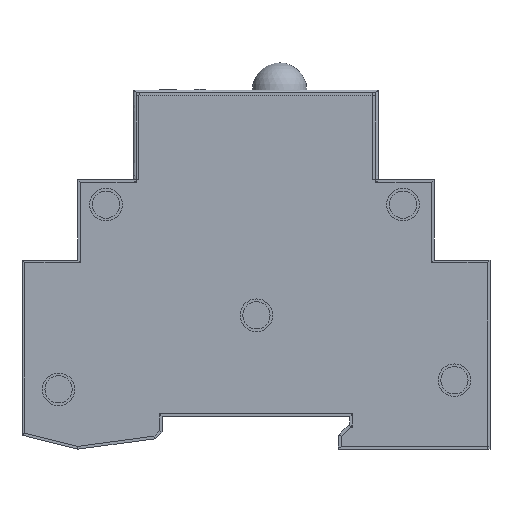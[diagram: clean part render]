
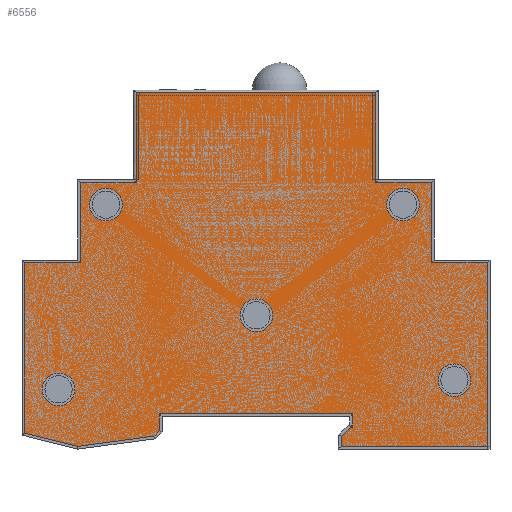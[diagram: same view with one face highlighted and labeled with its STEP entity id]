
A CAD part, left-side view. The second image highlights one B-rep face of the part: STEP entity #6556.
In plain terms, the highlighted planar face has unit normal (-1, 0, 0).
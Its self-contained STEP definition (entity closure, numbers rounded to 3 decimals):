
#380=LINE('',#9742,#930);
#381=LINE('',#9784,#931);
#382=LINE('',#9826,#932);
#383=LINE('',#9868,#933);
#384=LINE('',#9910,#934);
#385=LINE('',#9952,#935);
#386=LINE('',#9994,#936);
#387=LINE('',#10036,#937);
#388=LINE('',#10078,#938);
#390=LINE('',#10136,#940);
#391=LINE('',#10177,#941);
#394=LINE('',#10210,#944);
#396=LINE('',#10254,#946);
#398=LINE('',#10298,#948);
#400=LINE('',#10342,#950);
#402=LINE('',#10386,#952);
#404=LINE('',#10430,#954);
#406=LINE('',#10474,#956);
#408=LINE('',#10518,#958);
#410=LINE('',#10561,#960);
#411=LINE('',#10602,#961);
#930=VECTOR('',#7778,10.);
#931=VECTOR('',#7779,10.);
#932=VECTOR('',#7780,10.);
#933=VECTOR('',#7781,10.);
#934=VECTOR('',#7782,10.);
#935=VECTOR('',#7783,10.);
#936=VECTOR('',#7784,10.);
#937=VECTOR('',#7785,10.);
#938=VECTOR('',#7786,10.);
#940=VECTOR('',#7788,10.);
#941=VECTOR('',#7789,10.);
#944=VECTOR('',#7792,10.);
#946=VECTOR('',#7794,10.);
#948=VECTOR('',#7796,10.);
#950=VECTOR('',#7798,10.);
#952=VECTOR('',#7800,10.);
#954=VECTOR('',#7802,10.);
#956=VECTOR('',#7804,10.);
#958=VECTOR('',#7806,10.);
#960=VECTOR('',#7808,10.);
#961=VECTOR('',#7809,10.);
#1437=PLANE('',#7030);
#1697=FACE_BOUND('',#2340,.T.);
#1698=FACE_BOUND('',#2341,.T.);
#1699=FACE_BOUND('',#2342,.T.);
#1700=FACE_BOUND('',#2343,.T.);
#1701=FACE_BOUND('',#2344,.T.);
#1891=FACE_OUTER_BOUND('',#2339,.T.);
#2339=EDGE_LOOP('',(#4835,#4836,#4837,#4838,#4839,#4840,#4841,#4842,#4843,
#4844,#4845,#4846,#4847,#4848,#4849,#4850,#4851,#4852,#4853,#4854,#4855));
#2340=EDGE_LOOP('',(#4856));
#2341=EDGE_LOOP('',(#4857));
#2342=EDGE_LOOP('',(#4858));
#2343=EDGE_LOOP('',(#4859));
#2344=EDGE_LOOP('',(#4860));
#2843=CIRCLE('',#7031,3.);
#2844=CIRCLE('',#7032,3.);
#2845=CIRCLE('',#7033,3.);
#2846=CIRCLE('',#7034,3.);
#2847=CIRCLE('',#7035,3.);
#3085=VERTEX_POINT('',#9698);
#3086=VERTEX_POINT('',#9741);
#3087=VERTEX_POINT('',#9783);
#3088=VERTEX_POINT('',#9825);
#3089=VERTEX_POINT('',#9867);
#3090=VERTEX_POINT('',#9909);
#3091=VERTEX_POINT('',#9951);
#3092=VERTEX_POINT('',#9993);
#3093=VERTEX_POINT('',#10035);
#3094=VERTEX_POINT('',#10077);
#3097=VERTEX_POINT('',#10122);
#3098=VERTEX_POINT('',#10135);
#3100=VERTEX_POINT('',#10209);
#3102=VERTEX_POINT('',#10253);
#3104=VERTEX_POINT('',#10297);
#3106=VERTEX_POINT('',#10341);
#3108=VERTEX_POINT('',#10385);
#3110=VERTEX_POINT('',#10429);
#3112=VERTEX_POINT('',#10473);
#3114=VERTEX_POINT('',#10517);
#3115=VERTEX_POINT('',#10560);
#3116=VERTEX_POINT('',#10608);
#3117=VERTEX_POINT('',#10610);
#3118=VERTEX_POINT('',#10612);
#3119=VERTEX_POINT('',#10614);
#3120=VERTEX_POINT('',#10616);
#3753=EDGE_CURVE('',#3085,#3086,#380,.T.);
#3755=EDGE_CURVE('',#3086,#3087,#381,.T.);
#3757=EDGE_CURVE('',#3087,#3088,#382,.T.);
#3759=EDGE_CURVE('',#3088,#3089,#383,.T.);
#3761=EDGE_CURVE('',#3089,#3090,#384,.T.);
#3763=EDGE_CURVE('',#3090,#3091,#385,.T.);
#3765=EDGE_CURVE('',#3091,#3092,#386,.T.);
#3767=EDGE_CURVE('',#3092,#3093,#387,.T.);
#3769=EDGE_CURVE('',#3093,#3094,#388,.T.);
#3773=EDGE_CURVE('',#3097,#3098,#390,.T.);
#3775=EDGE_CURVE('',#3094,#3097,#391,.T.);
#3778=EDGE_CURVE('',#3098,#3100,#394,.T.);
#3781=EDGE_CURVE('',#3100,#3102,#396,.T.);
#3784=EDGE_CURVE('',#3102,#3104,#398,.T.);
#3787=EDGE_CURVE('',#3104,#3106,#400,.T.);
#3790=EDGE_CURVE('',#3106,#3108,#402,.T.);
#3793=EDGE_CURVE('',#3108,#3110,#404,.T.);
#3796=EDGE_CURVE('',#3110,#3112,#406,.T.);
#3799=EDGE_CURVE('',#3112,#3114,#408,.T.);
#3802=EDGE_CURVE('',#3114,#3115,#410,.T.);
#3804=EDGE_CURVE('',#3115,#3085,#411,.T.);
#3807=EDGE_CURVE('',#3116,#3116,#2843,.T.);
#3808=EDGE_CURVE('',#3117,#3117,#2844,.T.);
#3809=EDGE_CURVE('',#3118,#3118,#2845,.T.);
#3810=EDGE_CURVE('',#3119,#3119,#2846,.T.);
#3811=EDGE_CURVE('',#3120,#3120,#2847,.T.);
#4835=ORIENTED_EDGE('',*,*,#3773,.F.);
#4836=ORIENTED_EDGE('',*,*,#3775,.F.);
#4837=ORIENTED_EDGE('',*,*,#3769,.F.);
#4838=ORIENTED_EDGE('',*,*,#3767,.F.);
#4839=ORIENTED_EDGE('',*,*,#3765,.F.);
#4840=ORIENTED_EDGE('',*,*,#3763,.F.);
#4841=ORIENTED_EDGE('',*,*,#3761,.F.);
#4842=ORIENTED_EDGE('',*,*,#3759,.F.);
#4843=ORIENTED_EDGE('',*,*,#3757,.F.);
#4844=ORIENTED_EDGE('',*,*,#3755,.F.);
#4845=ORIENTED_EDGE('',*,*,#3753,.F.);
#4846=ORIENTED_EDGE('',*,*,#3804,.F.);
#4847=ORIENTED_EDGE('',*,*,#3802,.F.);
#4848=ORIENTED_EDGE('',*,*,#3799,.F.);
#4849=ORIENTED_EDGE('',*,*,#3796,.F.);
#4850=ORIENTED_EDGE('',*,*,#3793,.F.);
#4851=ORIENTED_EDGE('',*,*,#3790,.F.);
#4852=ORIENTED_EDGE('',*,*,#3787,.F.);
#4853=ORIENTED_EDGE('',*,*,#3784,.F.);
#4854=ORIENTED_EDGE('',*,*,#3781,.F.);
#4855=ORIENTED_EDGE('',*,*,#3778,.F.);
#4856=ORIENTED_EDGE('',*,*,#3807,.T.);
#4857=ORIENTED_EDGE('',*,*,#3808,.T.);
#4858=ORIENTED_EDGE('',*,*,#3809,.T.);
#4859=ORIENTED_EDGE('',*,*,#3810,.T.);
#4860=ORIENTED_EDGE('',*,*,#3811,.T.);
#6556=ADVANCED_FACE('',(#1891,#1697,#1698,#1699,#1700,#1701),#1437,.F.);
#7030=AXIS2_PLACEMENT_3D('',#10607,#7816,#7817);
#7031=AXIS2_PLACEMENT_3D('',#10609,#7818,#7819);
#7032=AXIS2_PLACEMENT_3D('',#10611,#7820,#7821);
#7033=AXIS2_PLACEMENT_3D('',#10613,#7822,#7823);
#7034=AXIS2_PLACEMENT_3D('',#10615,#7824,#7825);
#7035=AXIS2_PLACEMENT_3D('',#10617,#7826,#7827);
#7778=DIRECTION('',(0.,1.,0.));
#7779=DIRECTION('',(0.,0.,1.));
#7780=DIRECTION('',(0.,-0.707,0.707));
#7781=DIRECTION('',(0.,-1.,0.));
#7782=DIRECTION('',(0.,0.,1.));
#7783=DIRECTION('',(0.,1.,0.));
#7784=DIRECTION('',(0.,0.,-1.));
#7785=DIRECTION('',(0.,0.707,-0.707));
#7786=DIRECTION('',(0.,0.991,-0.134));
#7788=DIRECTION('',(0.,0.,1.));
#7789=DIRECTION('',(0.,0.97,0.243));
#7792=DIRECTION('',(0.,-1.,0.));
#7794=DIRECTION('',(0.,0.,1.));
#7796=DIRECTION('',(0.,-1.,0.));
#7798=DIRECTION('',(0.,0.,1.));
#7800=DIRECTION('',(0.,-1.,0.));
#7802=DIRECTION('',(0.,0.,-1.));
#7804=DIRECTION('',(0.,-1.,0.));
#7806=DIRECTION('',(0.,0.,-1.));
#7808=DIRECTION('',(0.,-1.,0.));
#7809=DIRECTION('',(0.,0.,-1.));
#7816=DIRECTION('center_axis',(1.,0.,0.));
#7817=DIRECTION('ref_axis',(0.,0.,-1.));
#7818=DIRECTION('center_axis',(1.,0.,0.));
#7819=DIRECTION('ref_axis',(0.,0.,-1.));
#7820=DIRECTION('center_axis',(1.,0.,0.));
#7821=DIRECTION('ref_axis',(0.,0.,-1.));
#7822=DIRECTION('center_axis',(1.,0.,0.));
#7823=DIRECTION('ref_axis',(0.,0.,-1.));
#7824=DIRECTION('center_axis',(1.,0.,0.));
#7825=DIRECTION('ref_axis',(0.,0.,-1.));
#7826=DIRECTION('center_axis',(1.,0.,0.));
#7827=DIRECTION('ref_axis',(0.,0.,-1.));
#9698=CARTESIAN_POINT('',(0.,-38.171,-28.595));
#9741=CARTESIAN_POINT('',(0.,-11.323,-28.595));
#9742=CARTESIAN_POINT('',(0.,-17.461,-28.595));
#9783=CARTESIAN_POINT('',(0.,-11.323,-26.734));
#9784=CARTESIAN_POINT('',(0.,-11.323,-14.261));
#9825=CARTESIAN_POINT('',(0.,-13.031,-25.027));
#9826=CARTESIAN_POINT('',(0.,-14.309,-23.749));
#9867=CARTESIAN_POINT('',(0.,-13.421,-25.027));
#9868=CARTESIAN_POINT('',(0.,-4.537,-25.027));
#9909=CARTESIAN_POINT('',(0.,-13.421,-22.592));
#9910=CARTESIAN_POINT('',(0.,-13.421,-11.977));
#9951=CARTESIAN_POINT('',(0.,22.079,-22.592));
#9952=CARTESIAN_POINT('',(0.,-4.586,-22.592));
#9993=CARTESIAN_POINT('',(0.,22.079,-25.709));
#9994=CARTESIAN_POINT('',(0.,22.079,-11.26));
#10035=CARTESIAN_POINT('',(0.,23.074,-26.704));
#10036=CARTESIAN_POINT('',(0.,10.853,-14.483));
#10077=CARTESIAN_POINT('',(0.,37.051,-28.587));
#10078=CARTESIAN_POINT('',(0.,11.696,-25.171));
#10122=CARTESIAN_POINT('',(0.,46.829,-26.14));
#10135=CARTESIAN_POINT('',(0.,46.829,5.158));
#10136=CARTESIAN_POINT('',(0.,46.829,-12.978));
#10177=CARTESIAN_POINT('',(0.,24.769,-31.66));
#10209=CARTESIAN_POINT('',(0.,36.579,5.158));
#10210=CARTESIAN_POINT('',(0.,25.539,5.158));
#10253=CARTESIAN_POINT('',(0.,36.579,19.905));
#10254=CARTESIAN_POINT('',(0.,36.579,3.115));
#10297=CARTESIAN_POINT('',(0.,26.329,19.905));
#10298=CARTESIAN_POINT('',(0.,20.414,19.905));
#10341=CARTESIAN_POINT('',(0.,26.329,36.405));
#10342=CARTESIAN_POINT('',(0.,26.329,10.489));
#10385=CARTESIAN_POINT('',(0.,-17.671,36.405));
#10386=CARTESIAN_POINT('',(0.,15.289,36.405));
#10429=CARTESIAN_POINT('',(0.,-17.671,19.905));
#10430=CARTESIAN_POINT('',(0.,-17.671,18.739));
#10473=CARTESIAN_POINT('',(0.,-27.921,19.905));
#10474=CARTESIAN_POINT('',(0.,-7.211,19.905));
#10517=CARTESIAN_POINT('',(0.,-27.921,5.158));
#10518=CARTESIAN_POINT('',(0.,-27.921,10.489));
#10560=CARTESIAN_POINT('',(0.,-38.171,5.158));
#10561=CARTESIAN_POINT('',(0.,-12.336,5.158));
#10602=CARTESIAN_POINT('',(0.,-38.171,3.115));
#10607=CARTESIAN_POINT('Origin',(0.,3.75,0.573));
#10608=CARTESIAN_POINT('',(0.,-22.67,18.843));
#10609=CARTESIAN_POINT('Origin',(0.,-22.67,15.843));
#10610=CARTESIAN_POINT('',(0.,-32.132,-13.422));
#10611=CARTESIAN_POINT('Origin',(0.,-32.132,-16.422));
#10612=CARTESIAN_POINT('',(0.,4.24,-1.497));
#10613=CARTESIAN_POINT('Origin',(0.,4.24,-4.497));
#10614=CARTESIAN_POINT('',(0.,40.611,-15.099));
#10615=CARTESIAN_POINT('Origin',(0.,40.611,-18.099));
#10616=CARTESIAN_POINT('',(0.,31.888,18.843));
#10617=CARTESIAN_POINT('Origin',(0.,31.888,15.843));
